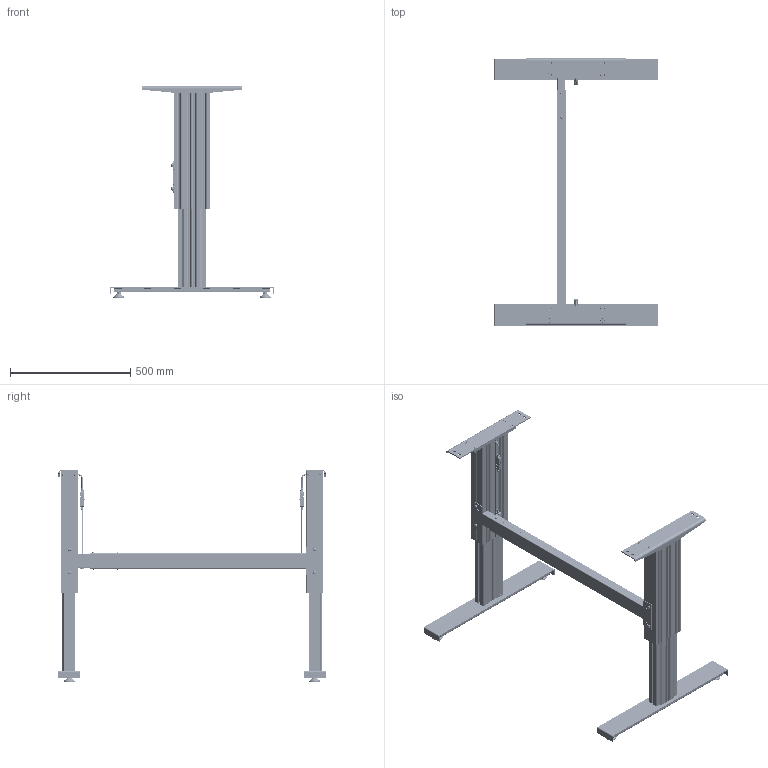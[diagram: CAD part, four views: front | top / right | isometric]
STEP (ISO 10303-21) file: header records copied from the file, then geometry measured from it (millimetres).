
FILE_DESCRIPTION(/* description */ ('Unknown'),/* implementation_level */ '2;1');
FILE_NAME(/* name */ 'Untergestell SM-2 1430 970-1620 XX XX_01-Ausgefahren',/* time_stamp */ '2022-01-26T13:32:42+01:00',/* author */ ('Unknown'),/* organization */ ('Unknown'),/* preprocessor_version */ 'ST-DEVELOPER v18.1',/* originating_system */ 'Solid Edge',/* authorisation */ 'Unknown');
FILE_SCHEMA (('AUTOMOTIVE_DESIGN {1 0 10303 214 3 1 1}'));
Products named in the file (38): Untergestell SM-2 1430 970-1620 XX XX; 902.00003_oa_0; 126.00138; 119.00315; 119.00314; 142.00166; 124.00201_oa_1; 142.00241; 110.00104_oa_2; 115.00200_oa_3; 124.00151; Kabel Motor Sx; 142.00343; 902.00003_oa_4; 124.00201_oa_5; 110.00104_oa_6; 115.00200_oa_7; 127.00635; 060339~2; 060340~3; Sechskantmutter M6 DIN 934; Scheibe Ø6,4 DIN 125; Halbrundkopfschraube mit Innensechskant M8x12 ISO 7380-1; Scheibe Ø8,4 DIN 125; Nutenstein M8_montiert; Halbrundkopfschraube mit Innensechskant und Bund M6x16 ISO 7380-2; 127.00545; 127.00548; 127.00566; 127.00567; 127.00548_461_469_Kehlnaht 1_oa_8; 113.00006; 113.00006-ohne Mutter; Mutter M10; 115.00165; 127.00223; 142.00279; 142.00068
Assembly tree (82 placements, depth 4):
  Untergestell SM-2 1430 970-1620 XX XX
    902.00003_oa_0
      126.00138
      119.00315
      119.00314
      142.00166  x4
      124.00201_oa_1
      142.00241  x2
      110.00104_oa_2
      115.00200_oa_3
      124.00151
      Kabel Motor Sx
      142.00343  x2
    902.00003_oa_4
      126.00138
      119.00315
      119.00314
      142.00166  x4
      124.00201_oa_5
      142.00241  x2
      110.00104_oa_6
      115.00200_oa_7
      124.00151
      Kabel Motor Sx
      142.00343  x2
    127.00635
      060339~2
      060340~3
      Sechskantmutter M6 DIN 934  x4
      Scheibe Ø6,4 DIN 125  x4
      Halbrundkopfschraube mit Innensechskant M8x12 ISO 7380-1  x4
      Scheibe Ø8,4 DIN 125  x4
      Nutenstein M8_montiert  x4
      Halbrundkopfschraube mit Innensechskant und Bund M6x16 ISO 7380-2  x4
    127.00545  x2
      127.00548
        127.00566
        127.00567
        127.00548_461_469_Kehlnaht 1_oa_8
      113.00006
        113.00006-ohne Mutter
        Mutter M10
    115.00165  x2
      127.00223
      142.00279
      142.00068
Bounding box: 680 x 1110 x 880 mm (x, y, z)
Volume: 6649604.8 mm3; surface area: 3491158.7 mm2
Topology: 106 solids, 106 shells, 8282 faces, 22827 edges, 15025 vertices
Faces by surface type: plane 4642, cylinder 2872, torus 290, cone 244, bspline 218, sphere 16
Full cylindrical faces by diameter (mm): 1.5 x12, 1.82 x12, 2.459 x2, 2.7 x12, 3.242 x4, 3.4 x2, 4 x8, 5 x10, 5.5 x8, 6 x14, 6.4 x4, 6.647 x12, 7 x20, 8 x16, 8.376 x10, 8.5 x28, 8.7 x8, 9 x8, 9.5 x4, 10 x4, 12 x4, 13.6 x4, 14 x4, 15 x4, 16.8 x4, 19 x4, 25 x12, 29 x4, 30 x4, 35 x4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
Entity records: 146329 total; most frequent: CARTESIAN_POINT 26865, ORIENTED_EDGE 20926, DIRECTION 20512, EDGE_CURVE 10463, VERTEX_POINT 6998, AXIS2_PLACEMENT_3D 6914, LINE 6684, VECTOR 6684
